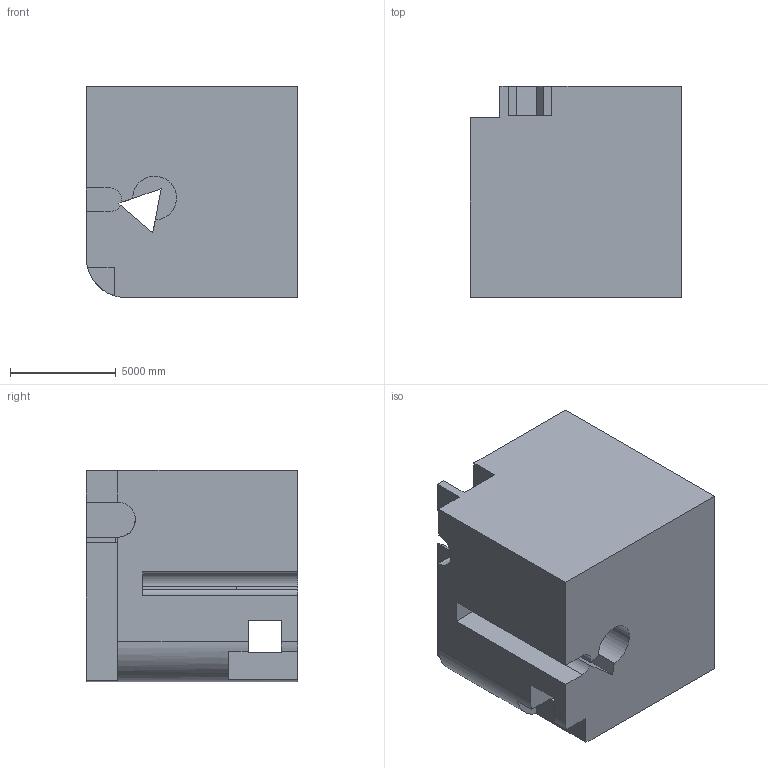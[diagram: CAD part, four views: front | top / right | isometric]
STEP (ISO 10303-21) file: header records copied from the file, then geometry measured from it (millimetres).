
FILE_DESCRIPTION (( 'STEP AP203' ), '1' );
FILE_NAME ('917.STEP', '2022-08-05T15:31:09', ( 'user' ), ( '' ), 'SwSTEP 2.0', 'SolidWorks 2021', '' );
FILE_SCHEMA (( 'CONFIG_CONTROL_DESIGN' ));
Length unit declared in the file: centimetre
Products named in the file (1): 917
Bounding box: 10000 x 10000 x 10000 mm (x, y, z)
Volume: 882086917722.4 mm3; surface area: 743532593.3 mm2
Topology: 1 solids, 1 shells, 47 faces, 143 edges, 95 vertices
Faces by surface type: plane 41, cylinder 6
Entity records: 1669 total; most frequent: CARTESIAN_POINT 292, ORIENTED_EDGE 286, DIRECTION 252, EDGE_CURVE 143, VECTOR 126, LINE 126, VERTEX_POINT 95, AXIS2_PLACEMENT_3D 63
